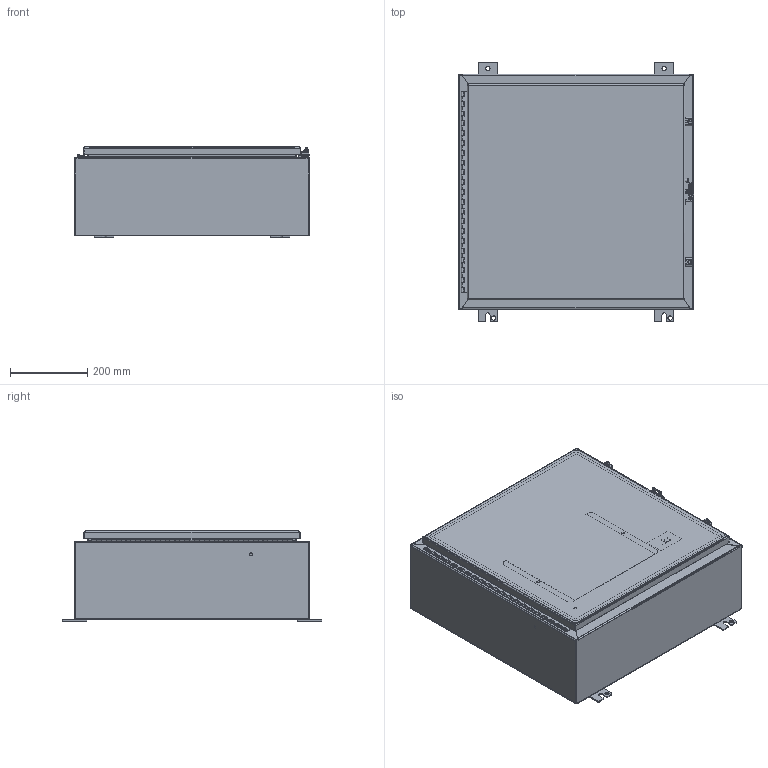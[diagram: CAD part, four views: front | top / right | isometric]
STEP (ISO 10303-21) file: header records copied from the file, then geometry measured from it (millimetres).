
FILE_DESCRIPTION((''),'2;1');
FILE_NAME('MODEL-303_ASM','2026-04-02T13:10:16',('ChadS'),('SAGINAW CONTROL & ENGINEERING'),'CREO PARAMETRIC BY PTC INC, 2021284','CREO PARAMETRIC BY PTC INC, 2021284','');
FILE_SCHEMA(('AUTOMOTIVE_DESIGN { 1 0 10303 214 1 1 1 1 }'));
Length unit declared in the file: inch
Products named in the file (30): MODEL-303-BDY; MODEL-303-TP; MODEL-303-BTM; MODEL-303-DR; 100837; 100882; 111267; 125597; 118919_DR; 118919_PIN; 118919_BX; 118919_STUD; 118919_ASM; 100897; MODEL-303-DOOR-GASKET; 128600; 102483; MODEL-303-DOOR-ASSY_ASM; 102211; 101653; 121452; 120131_BASE; 120131_CLAMP; 120131_SCREW; 120131_CLOSED_ASM; 120134; SUBPANEL; 100904; SUBPANEL-SUBASSEMBLY_ASM; MODEL-303_ASM
Assembly tree (52 placements, depth 4):
  MODEL-303_ASM
    MODEL-303-BDY
    MODEL-303-TP
    MODEL-303-BTM
    MODEL-303-DOOR-ASSY_ASM
      MODEL-303-DR
      100837  x3
      100882  x2
      111267
      125597
      118919_ASM
        118919_DR
        118919_PIN
        118919_BX
        118919_STUD  x4
      100897  x4
      MODEL-303-DOOR-GASKET
      128600
      102483
    102211  x4
    100837
    101653  x4
    121452
    120131_CLOSED_ASM  x2
      120131_BASE
      120131_CLAMP
      120131_SCREW
    100882  x3
    120134
    SUBPANEL-SUBASSEMBLY_ASM
      SUBPANEL
      100904  x4
Bounding box: 609.6 x 673.1 x 233.88 mm (x, y, z)
Volume: 4067619 mm3; surface area: 3740401.7 mm2
Topology: 49 solids, 49 shells, 3525 faces, 9148 edges, 5758 vertices
Faces by surface type: plane 1426, bspline 925, cylinder 787, torus 210, sphere 93, cone 84
Entity records: 95919 total; most frequent: CARTESIAN_POINT 30731, ORIENTED_EDGE 9670, DIRECTION 8733, PRESENTATION_STYLE_ASSIGNMENT 4966, STYLED_ITEM 4964, CURVE_STYLE 4835, EDGE_CURVE 4835, VERTEX_POINT 3048
